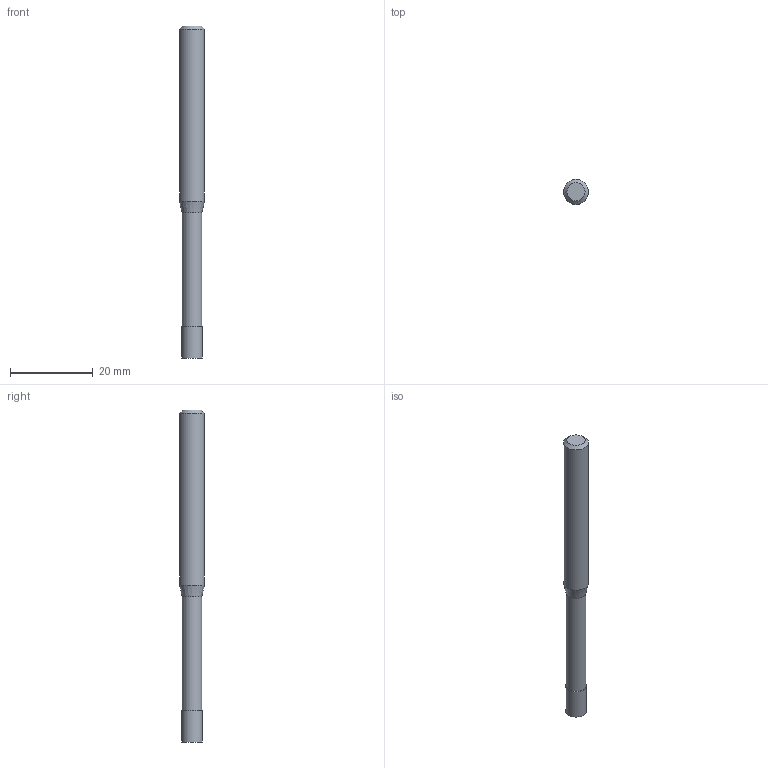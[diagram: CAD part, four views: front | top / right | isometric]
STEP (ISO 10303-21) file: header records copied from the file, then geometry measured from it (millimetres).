
FILE_DESCRIPTION((''),'2;1');
FILE_NAME('C:\Users\nsx150\AppData\Local\Temp\Mastercam 2021\17T8Q8S9EB\TEMP.step','2021-04-21T14:29:01',(''),(''),'STEP Write','Mastercam 2021 ... CNC Software, Inc.','');
FILE_SCHEMA(('AUTOMOTIVE_DESIGN'));
Length unit declared in the file: millimetre
Products named in the file (1): None
Bounding box: 6 x 6 x 80 mm (x, y, z)
Volume: 1896.8 mm3; surface area: 1452.5 mm2
Topology: 2 solids, 2 shells, 9 faces, 12 edges, 7 vertices
Faces by surface type: plane 4, cylinder 3, cone 2
Full cylindrical faces by diameter (mm): 4.8 x1, 5 x1, 6 x1
Entity records: 211 total; most frequent: DIRECTION 36, CARTESIAN_POINT 25, AXIS2_PLACEMENT_3D 18, ORIENTED_EDGE 14, EDGE_LOOP 14, STYLED_ITEM 12, ADVANCED_FACE 9, FACE_BOUND 8
